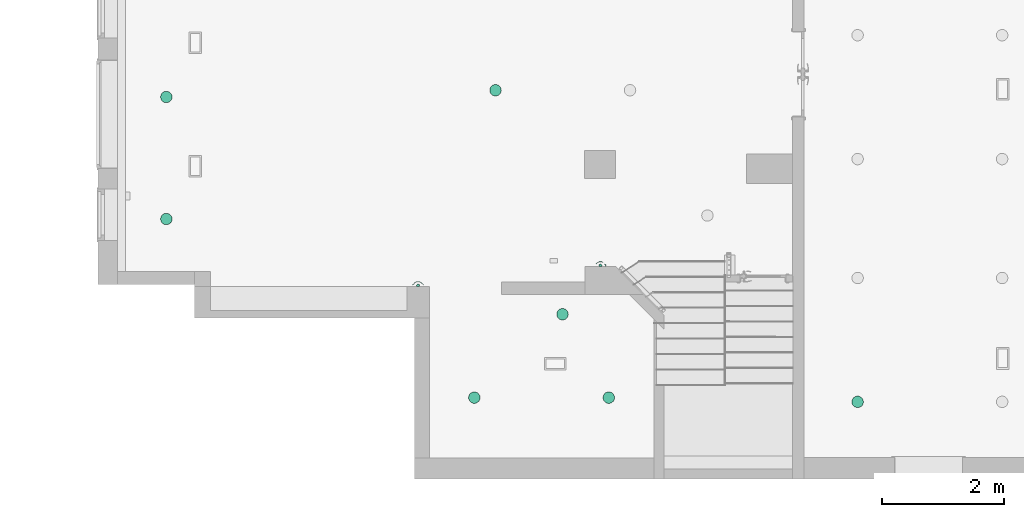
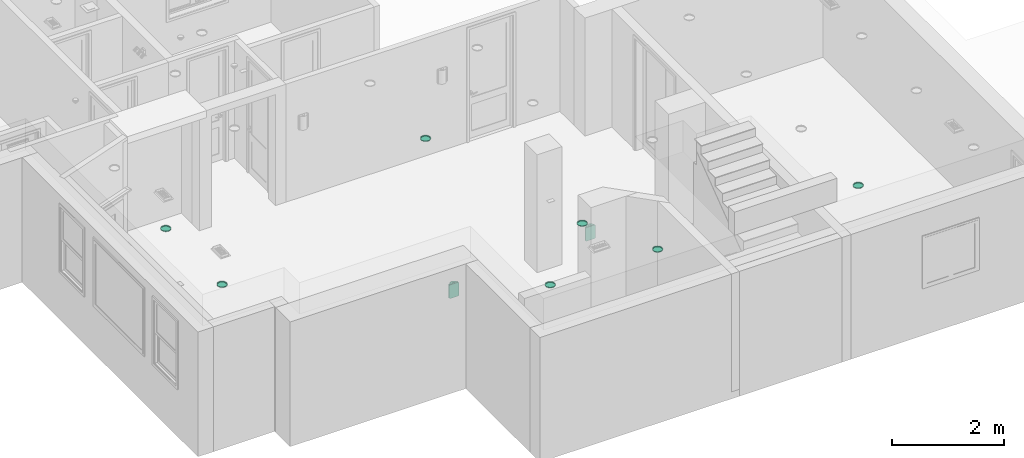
# One storey, part 14 of 24: 9 flow terminals.
"""IFC2X3 building model written with IfcOpenShell, lengths in inches."""

from ifc_helpers import new_model, entity, si_unit, converted_unit, derived_unit, money_unit, direction, frame, origin_with_axes, place, context, subcontext, project, spatial, open_shell, faceted_brep, surface_model, source, transform, mapped, type_object, element, save


model = new_model("IFC2X3")

# Units and contexts
model_context = context("Model", 3, precision=0.000393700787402, world=origin_with_axes(), true_north=direction((0.0, 1.0)))
body_context = subcontext(model_context, "Body", "Model", "MODEL_VIEW")
ifc_project = project(units=[converted_unit("LENGTHUNIT", "INCH", entity("IfcPositiveLengthMeasure", 0.0254), si_unit("LENGTHUNIT", "METRE"), dimensions=[1, 0, 0, 0, 0, 0, 0]), converted_unit("AREAUNIT", "SQUARE_FOOT", entity("IfcPositiveLengthMeasure", 0.09290304), si_unit("AREAUNIT", "SQUARE_METRE"), dimensions=[2, 0, 0, 0, 0, 0, 0]), si_unit("PLANEANGLEUNIT", "RADIAN"), si_unit("SOLIDANGLEUNIT", "STERADIAN"), money_unit("USD"), converted_unit("TIMEUNIT", "Year", entity("IfcTimeMeasure", 31556926.0), si_unit("TIMEUNIT", "SECOND"), dimensions=[0, 0, 1, 0, 0, 0, 0]), si_unit("MASSUNIT", "GRAM", prefix="KILO"), si_unit("THERMODYNAMICTEMPERATUREUNIT", "DEGREE_CELSIUS"), si_unit("LUMINOUSINTENSITYUNIT", "LUMEN"), si_unit("ENERGYUNIT", "JOULE", prefix="MEGA"), derived_unit("THERMALCONDUCTANCEUNIT", [(si_unit("POWERUNIT", "WATT"), 1), (si_unit("LENGTHUNIT", "METRE"), -1), (si_unit("THERMODYNAMICTEMPERATUREUNIT", "KELVIN"), -1)]), derived_unit("SPECIFICHEATCAPACITYUNIT", [(si_unit("ENERGYUNIT", "JOULE"), 1), (si_unit("MASSUNIT", "GRAM", prefix="KILO"), -1), (si_unit("THERMODYNAMICTEMPERATUREUNIT", "KELVIN"), -1)]), derived_unit("MASSDENSITYUNIT", [(si_unit("MASSUNIT", "GRAM", prefix="KILO"), 1), (si_unit("VOLUMEUNIT", "CUBIC_METRE"), -1)])], contexts=[model_context])

# Site, building, storey
site_placement = place(None, origin_with_axes())
site = spatial("IfcSite", under=ifc_project, at=site_placement, Name="Site", CompositionType="ELEMENT")
building_placement = place(site_placement, origin_with_axes())
building = spatial("IfcBuilding", under=site, at=building_placement, Name="Building", CompositionType="ELEMENT")
storey_placement = place(building_placement, origin_with_axes())
storey = spatial("IfcBuildingStorey", under=building, at=storey_placement, Name="First Floor", CompositionType="ELEMENT", Elevation=0.0)

# Flow terminals
light_fixture_type_1 = type_object("IfcLightFixtureType", Name="Recessed Spot 25", PredefinedType="NOTDEFINED")
shared_shape_1 = source(origin_with_axes(), body_context, "Body", "SurfaceModel", [
    faceted_brep([(3.74015748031, 0.0, -0.590551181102), (3.51459838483, 1.27920919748, -0.590551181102), (3.51459838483, 1.27920919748, 0.0), (3.74015748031, 0.0, 0.0), (3.51459838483, -1.27920919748, -0.590551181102), (2.86512685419, -2.40412688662, -0.590551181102), (1.87007874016, -3.23907139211, -0.590551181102), (0.649471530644, -3.6833360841, -0.590551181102), (-0.649471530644, -3.6833360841, -0.590551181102), (-1.87007874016, -3.23907139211, -0.590551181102), (-2.86512685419, -2.40412688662, -0.590551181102), (-3.51459838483, -1.27920919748, -0.590551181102), (-3.74015748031, 0.0, -0.590551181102), (-3.51459838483, 1.27920919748, -0.590551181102), (-2.86512685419, 2.40412688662, -0.590551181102), (-1.87007874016, 3.23907139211, -0.590551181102), (-0.649471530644, 3.6833360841, -0.590551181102), (0.649471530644, 3.6833360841, -0.590551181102), (1.87007874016, 3.23907139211, -0.590551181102), (2.86512685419, 2.40412688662, -0.590551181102), (3.14960629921, 0.0, -0.590551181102), (2.95966179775, 1.07722879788, -0.590551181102), (2.41273840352, 2.02452790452, -0.590551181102), (1.57480314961, 2.72763906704, -0.590551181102), (0.546923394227, 3.1017567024, -0.590551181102), (-0.546923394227, 3.1017567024, -0.590551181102), (-1.57480314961, 2.72763906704, -0.590551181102), (-2.41273840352, 2.02452790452, -0.590551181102), (-2.95966179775, 1.07722879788, -0.590551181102), (-3.14960629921, 0.0, -0.590551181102), (-2.95966179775, -1.07722879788, -0.590551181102), (-2.41273840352, -2.02452790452, -0.590551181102), (-1.57480314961, -2.72763906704, -0.590551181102), (-0.546923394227, -3.1017567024, -0.590551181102), (0.546923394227, -3.1017567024, -0.590551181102), (1.57480314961, -2.72763906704, -0.590551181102), (2.41273840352, -2.02452790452, -0.590551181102), (2.95966179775, -1.07722879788, -0.590551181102), (2.86512685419, 2.40412688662, 0.0), (1.87007874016, 3.23907139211, 0.0), (0.649471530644, 3.6833360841, 0.0), (-0.649471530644, 3.6833360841, 0.0), (-1.87007874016, 3.23907139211, 0.0), (-2.86512685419, 2.40412688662, 0.0), (-3.51459838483, 1.27920919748, 0.0), (-3.74015748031, 0.0, 0.0), (-3.51459838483, -1.27920919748, 0.0), (-2.86512685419, -2.40412688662, 0.0), (-1.87007874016, -3.23907139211, 0.0), (-0.649471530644, -3.6833360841, 0.0), (0.649471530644, -3.6833360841, 0.0), (1.87007874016, -3.23907139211, 0.0), (2.86512685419, -2.40412688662, 0.0), (3.51459838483, -1.27920919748, 0.0), (3.14960629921, 0.0, 0.0), (2.95966179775, -1.07722879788, 0.0), (2.41273840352, -2.02452790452, 0.0), (1.57480314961, -2.72763906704, 0.0), (0.546923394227, -3.1017567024, 0.0), (-0.546923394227, -3.1017567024, 0.0), (-1.57480314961, -2.72763906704, 0.0), (-2.41273840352, -2.02452790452, 0.0), (-2.95966179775, -1.07722879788, 0.0), (-3.14960629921, 0.0, 0.0), (-2.95966179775, 1.07722879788, 0.0), (-2.41273840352, 2.02452790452, 0.0), (-1.57480314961, 2.72763906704, 0.0), (-0.546923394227, 3.1017567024, 0.0), (0.546923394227, 3.1017567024, 0.0), (1.57480314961, 2.72763906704, 0.0), (2.41273840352, 2.02452790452, 0.0), (2.95966179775, 1.07722879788, 0.0)], [[[0, 1, 2, 3]], [[0, 4, 5, 6, 7, 8, 9, 10, 11, 12, 13, 14, 15, 16, 17, 18, 19, 1], [20, 21, 22, 23, 24, 25, 26, 27, 28, 29, 30, 31, 32, 33, 34, 35, 36, 37]], [[1, 19, 38, 2]], [[3, 2, 38, 39, 40, 41, 42, 43, 44, 45, 46, 47, 48, 49, 50, 51, 52, 53], [54, 55, 56, 57, 58, 59, 60, 61, 62, 63, 64, 65, 66, 67, 68, 69, 70, 71]], [[4, 0, 3, 53]], [[5, 4, 53, 52]], [[6, 5, 52, 51]], [[7, 6, 51, 50]], [[8, 7, 50, 49]], [[9, 8, 49, 48]], [[10, 9, 48, 47]], [[11, 10, 47, 46]], [[12, 11, 46, 45]], [[13, 12, 45, 44]], [[14, 13, 44, 43]], [[15, 14, 43, 42]], [[16, 15, 42, 41]], [[17, 16, 41, 40]], [[18, 17, 40, 39]], [[19, 18, 39, 38]], [[21, 20, 54, 71]], [[22, 21, 71, 70]], [[23, 22, 70, 69]], [[24, 23, 69, 68]], [[25, 24, 68, 67]], [[26, 25, 67, 66]], [[27, 26, 66, 65]], [[28, 27, 65, 64]], [[29, 28, 64, 63]], [[30, 29, 63, 62]], [[31, 30, 62, 61]], [[32, 31, 61, 60]], [[33, 32, 60, 59]], [[34, 33, 59, 58]], [[35, 34, 58, 57]], [[36, 35, 57, 56]], [[37, 36, 56, 55]], [[20, 37, 55, 54]]]),
    surface_model("IfcShellBasedSurfaceModel", [(3.14960629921, 0.0, -0.527559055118), (2.95966179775, -1.07722879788, -0.527559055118), (2.41273840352, -2.02452790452, -0.527559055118), (1.57480314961, -2.72763906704, -0.527559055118), (0.546923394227, -3.1017567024, -0.527559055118), (-0.546923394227, -3.1017567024, -0.527559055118), (-1.57480314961, -2.72763906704, -0.527559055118), (-2.41273840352, -2.02452790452, -0.527559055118), (-2.95966179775, -1.07722879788, -0.527559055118), (-3.14960629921, 0.0, -0.527559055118), (-2.95966179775, 1.07722879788, -0.527559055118), (-2.41273840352, 2.02452790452, -0.527559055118), (-1.57480314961, 2.72763906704, -0.527559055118), (-0.546923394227, 3.1017567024, -0.527559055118), (0.546923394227, 3.1017567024, -0.527559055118), (1.57480314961, 2.72763906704, -0.527559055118), (2.41273840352, 2.02452790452, -0.527559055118), (2.95966179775, 1.07722879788, -0.527559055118)], [open_shell([[[0, 1, 2, 3, 4, 5, 6, 7, 8, 9, 10, 11, 12, 13, 14, 15, 16, 17]]])]),
])
for number, where, z_axis, x_axis, name in (
    (1, (769.180563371, 62.9166406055, 101.0), (0.0, 0.0, 1.0), (1.0, 0.0, 0.0), "L-03"),
    (2, (321.927307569, 260.154498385, 101.0), (0.0, 0.0, 1.0), (1.0, 0.0, 0.0), "L-03"),
    (3, (321.927307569, 181.217490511, 101.0), (0.0, 0.0, 1.0), (1.0, 0.0, 0.0), "L-03"),
    (4, (521.167878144, 65.6634610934, 101.0), (0.0, 0.0, 1.0), (1.0, 0.0, 0.0), "L-03"),
    (5, (578.254492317, 119.600468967, 101.0), (0.0, 0.0, 1.0), (1.0, 0.0, 0.0), "L-03"),
    (6, (608.175752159, 65.6634610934, 101.0), (0.0, 0.0, 1.0), (1.0, 0.0, 0.0), "L-03"),
    (7, (534.910431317, 264.501660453, 101.0), (0.0, 0.0, 1.0), (1.0, 0.0, 0.0), "L-03"),
):
    element("IfcFlowTerminal", number, at=place(storey_placement, frame(where, z_axis=z_axis, x_axis=x_axis)), inside=storey, type_object=light_fixture_type_1, Name=name, context=body_context, shape_type="MappedRepresentation", body=[
        mapped(shared_shape_1, transform((0.0, 0.0, 0.0))),
    ])
light_fixture_type_2 = type_object("IfcLightFixtureType", Name="Wall Lamp 25", PredefinedType="NOTDEFINED")
shared_shape_2 = source(origin_with_axes(), body_context, "Body", "Brep", [
    faceted_brep([(3.93700787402, -1.06299212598, 0.0), (3.59199112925, -1.06314352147, 0.0), (3.59199112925, -1.06314352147, 11.811023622), (3.93700787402, -1.06299212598, 11.811023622), (3.93700787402, -1.1811023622, 0.0), (3.54330708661, -1.1811023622, 0.0), (3.38969265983, -1.19623206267, 0.0), (3.24198154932, -1.24103973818, 0.0), (3.10585021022, -1.31380345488, 0.0), (2.98653009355, -1.41172694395, 0.0), (2.66966529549, -1.94556474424, 0.0), (2.25851711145, -2.41069189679, 0.0), (1.76760587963, -2.7906817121, 0.0), (1.2142688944, -3.0721142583, 0.0), (0.618048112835, -3.24505030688, 0.0), (0.0, -3.30338235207, 0.0), (0.0, -3.14960629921, 0.0), (0.56588522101, -3.09835339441, 0.0), (1.11335337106, -2.94626273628, 0.0), (1.6245867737, -2.6982842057, 0.0), (2.0829470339, -2.3624884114, 0.0), (2.47351654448, -1.94980402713, 0.0), (2.78358398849, -1.47366211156, 0.0), (2.90306916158, -1.32652027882, 0.0), (3.0505358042, -1.20743621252, 0.0), (3.21953891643, -1.12161445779, 0.0), (3.40269225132, -1.07280583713, 0.0), (3.40269225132, -1.07280583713, 11.811023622), (3.21953891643, -1.12161445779, 11.811023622), (3.0505358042, -1.20743621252, 11.811023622), (2.90306916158, -1.32652027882, 11.811023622), (2.78358398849, -1.47366211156, 11.811023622), (2.47351654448, -1.94980402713, 11.811023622), (2.0829470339, -2.3624884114, 11.811023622), (1.6245867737, -2.6982842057, 11.811023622), (1.11335337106, -2.94626273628, 11.811023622), (0.56588522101, -3.09835339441, 11.811023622), (0.0, -3.14960629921, 11.811023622), (0.0, -3.30338235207, 11.811023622), (0.618048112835, -3.24505030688, 11.811023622), (1.2142688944, -3.0721142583, 11.811023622), (1.76760587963, -2.7906817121, 11.811023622), (2.25851711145, -2.41069189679, 11.811023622), (2.66966529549, -1.94556474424, 11.811023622), (2.98653009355, -1.41172694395, 11.811023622), (3.10585021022, -1.31380345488, 11.811023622), (3.24198154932, -1.24103973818, 11.811023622), (3.38969265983, -1.19623206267, 11.811023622), (3.54330708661, -1.1811023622, 11.811023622), (3.93700787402, -1.1811023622, 11.811023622)], [[[0, 1, 2, 3]], [[0, 4, 5, 6, 7, 8, 9, 10, 11, 12, 13, 14, 15, 16, 17, 18, 19, 20, 21, 22, 23, 24, 25, 26, 1]], [[1, 26, 27, 2]], [[3, 2, 27, 28, 29, 30, 31, 32, 33, 34, 35, 36, 37, 38, 39, 40, 41, 42, 43, 44, 45, 46, 47, 48, 49]], [[4, 0, 3, 49]], [[5, 4, 49, 48]], [[6, 5, 48, 47]], [[7, 6, 47, 46]], [[8, 7, 46, 45]], [[9, 8, 45, 44]], [[10, 9, 44, 43]], [[11, 10, 43, 42]], [[12, 11, 42, 41]], [[13, 12, 41, 40]], [[14, 13, 40, 39]], [[15, 14, 39, 38]], [[16, 15, 38, 37]], [[17, 16, 37, 36]], [[18, 17, 36, 35]], [[19, 18, 35, 34]], [[20, 19, 34, 33]], [[21, 20, 33, 32]], [[22, 21, 32, 31]], [[23, 22, 31, 30]], [[24, 23, 30, 29]], [[25, 24, 29, 28]], [[26, 25, 28, 27]]]),
    faceted_brep([(-3.93700787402, -1.06299212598, 0.0), (-3.93700787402, -1.06299212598, 11.811023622), (-3.59199112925, -1.06314352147, 11.811023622), (-3.59199112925, -1.06314352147, 0.0), (-3.93700787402, -1.1811023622, 0.0), (-3.93700787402, -1.1811023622, 11.811023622), (-3.54330708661, -1.1811023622, 11.811023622), (-3.38969265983, -1.19623206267, 11.811023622), (-3.24198154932, -1.24103973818, 11.811023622), (-3.10585021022, -1.31380345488, 11.811023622), (-2.98653009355, -1.41172694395, 11.811023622), (-2.66966529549, -1.94556474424, 11.811023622), (-2.25851711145, -2.41069189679, 11.811023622), (-1.76760587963, -2.7906817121, 11.811023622), (-1.2142688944, -3.0721142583, 11.811023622), (-0.618048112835, -3.24505030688, 11.811023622), (0.0, -3.30338235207, 11.811023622), (0.0, -3.14960629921, 11.811023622), (-0.56588522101, -3.09835339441, 11.811023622), (-1.11335337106, -2.94626273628, 11.811023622), (-1.6245867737, -2.6982842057, 11.811023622), (-2.0829470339, -2.3624884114, 11.811023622), (-2.47351654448, -1.94980402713, 11.811023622), (-2.78358398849, -1.47366211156, 11.811023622), (-2.90306916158, -1.32652027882, 11.811023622), (-3.0505358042, -1.20743621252, 11.811023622), (-3.21953891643, -1.12161445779, 11.811023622), (-3.40269225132, -1.07280583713, 11.811023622), (-3.40269225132, -1.07280583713, 0.0), (-3.21953891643, -1.12161445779, 0.0), (-3.0505358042, -1.20743621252, 0.0), (-2.90306916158, -1.32652027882, 0.0), (-2.78358398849, -1.47366211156, 0.0), (-2.47351654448, -1.94980402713, 0.0), (-2.0829470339, -2.3624884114, 0.0), (-1.6245867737, -2.6982842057, 0.0), (-1.11335337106, -2.94626273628, 0.0), (-0.56588522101, -3.09835339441, 0.0), (0.0, -3.14960629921, 0.0), (0.0, -3.30338235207, 0.0), (-0.618048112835, -3.24505030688, 0.0), (-1.2142688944, -3.0721142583, 0.0), (-1.76760587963, -2.7906817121, 0.0), (-2.25851711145, -2.41069189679, 0.0), (-2.66966529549, -1.94556474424, 0.0), (-2.98653009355, -1.41172694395, 0.0), (-3.10585021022, -1.31380345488, 0.0), (-3.24198154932, -1.24103973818, 0.0), (-3.38969265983, -1.19623206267, 0.0), (-3.54330708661, -1.1811023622, 0.0)], [[[0, 1, 2, 3]], [[4, 5, 1, 0]], [[1, 5, 6, 7, 8, 9, 10, 11, 12, 13, 14, 15, 16, 17, 18, 19, 20, 21, 22, 23, 24, 25, 26, 27, 2]], [[3, 2, 27, 28]], [[0, 3, 28, 29, 30, 31, 32, 33, 34, 35, 36, 37, 38, 39, 40, 41, 42, 43, 44, 45, 46, 47, 48, 49, 4]], [[49, 6, 5, 4]], [[48, 7, 6, 49]], [[47, 8, 7, 48]], [[46, 9, 8, 47]], [[45, 10, 9, 46]], [[44, 11, 10, 45]], [[43, 12, 11, 44]], [[42, 13, 12, 43]], [[41, 14, 13, 42]], [[40, 15, 14, 41]], [[39, 16, 15, 40]], [[38, 17, 16, 39]], [[37, 18, 17, 38]], [[36, 19, 18, 37]], [[35, 20, 19, 36]], [[34, 21, 20, 35]], [[33, 22, 21, 34]], [[32, 23, 22, 33]], [[31, 24, 23, 32]], [[30, 25, 24, 31]], [[29, 26, 25, 30]], [[28, 27, 26, 29]]]),
    faceted_brep([(3.14960629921, 0.0, 0.0), (3.14960629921, -0.0393700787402, 0.0), (-3.14960629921, -0.0393700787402, 0.0), (-3.14960629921, 0.0, 0.0), (3.303220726, 0.0, 0.0151297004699), (3.303220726, -0.0393700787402, 0.0151297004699), (3.45093183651, -0.0393700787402, 0.0599373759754), (3.58706317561, -0.0393700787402, 0.132701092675), (3.70638329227, -0.0393700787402, 0.230624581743), (3.80430678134, -0.0393700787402, 0.34994469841), (3.87707049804, -0.0393700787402, 0.486076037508), (3.92187817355, -0.0393700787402, 0.633787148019), (3.93700787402, -0.0393700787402, 0.787401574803), (3.93700787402, -0.0393700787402, 11.0236220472), (3.92187817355, -0.0393700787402, 11.177236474), (3.87707049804, -0.0393700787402, 11.3249475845), (3.80430678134, -0.0393700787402, 11.4610789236), (3.70638329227, -0.0393700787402, 11.5803990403), (3.58706317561, -0.0393700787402, 11.6783225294), (3.45093183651, -0.0393700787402, 11.7510862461), (3.303220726, -0.0393700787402, 11.7958939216), (3.14960629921, -0.0393700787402, 11.811023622), (-3.14960629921, -0.0393700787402, 11.811023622), (-3.303220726, -0.0393700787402, 11.7958939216), (-3.45093183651, -0.0393700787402, 11.7510862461), (-3.58706317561, -0.0393700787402, 11.6783225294), (-3.70638329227, -0.0393700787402, 11.5803990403), (-3.80430678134, -0.0393700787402, 11.4610789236), (-3.87707049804, -0.0393700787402, 11.3249475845), (-3.92187817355, -0.0393700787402, 11.177236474), (-3.93700787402, -0.0393700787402, 11.0236220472), (-3.93700787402, -0.0393700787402, 0.787401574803), (-3.92187817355, -0.0393700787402, 0.633787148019), (-3.87707049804, -0.0393700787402, 0.486076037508), (-3.80430678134, -0.0393700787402, 0.34994469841), (-3.70638329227, -0.0393700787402, 0.230624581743), (-3.58706317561, -0.0393700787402, 0.132701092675), (-3.45093183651, -0.0393700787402, 0.0599373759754), (-3.303220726, -0.0393700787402, 0.0151297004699), (-3.303220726, 0.0, 0.0151297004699), (-3.45093183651, 0.0, 0.0599373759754), (-3.58706317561, 0.0, 0.132701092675), (-3.70638329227, 0.0, 0.230624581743), (-3.80430678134, 0.0, 0.34994469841), (-3.87707049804, 0.0, 0.486076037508), (-3.92187817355, 0.0, 0.633787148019), (-3.93700787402, 0.0, 0.787401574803), (-3.93700787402, 0.0, 11.0236220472), (-3.92187817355, 0.0, 11.177236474), (-3.87707049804, 0.0, 11.3249475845), (-3.80430678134, 0.0, 11.4610789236), (-3.70638329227, 0.0, 11.5803990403), (-3.58706317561, 0.0, 11.6783225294), (-3.45093183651, 0.0, 11.7510862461), (-3.303220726, 0.0, 11.7958939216), (-3.14960629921, 0.0, 11.811023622), (3.14960629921, 0.0, 11.811023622), (3.303220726, 0.0, 11.7958939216), (3.45093183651, 0.0, 11.7510862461), (3.58706317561, 0.0, 11.6783225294), (3.70638329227, 0.0, 11.5803990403), (3.80430678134, 0.0, 11.4610789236), (3.87707049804, 0.0, 11.3249475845), (3.92187817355, 0.0, 11.177236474), (3.93700787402, 0.0, 11.0236220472), (3.93700787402, 0.0, 0.787401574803), (3.92187817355, 0.0, 0.633787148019), (3.87707049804, 0.0, 0.486076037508), (3.80430678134, 0.0, 0.34994469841), (3.70638329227, 0.0, 0.230624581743), (3.58706317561, 0.0, 0.132701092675), (3.45093183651, 0.0, 0.0599373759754)], [[[0, 1, 2, 3]], [[4, 5, 1, 0]], [[1, 5, 6, 7, 8, 9, 10, 11, 12, 13, 14, 15, 16, 17, 18, 19, 20, 21, 22, 23, 24, 25, 26, 27, 28, 29, 30, 31, 32, 33, 34, 35, 36, 37, 38, 2]], [[3, 2, 38, 39]], [[0, 3, 39, 40, 41, 42, 43, 44, 45, 46, 47, 48, 49, 50, 51, 52, 53, 54, 55, 56, 57, 58, 59, 60, 61, 62, 63, 64, 65, 66, 67, 68, 69, 70, 71, 4]], [[71, 6, 5, 4]], [[70, 7, 6, 71]], [[69, 8, 7, 70]], [[68, 9, 8, 69]], [[67, 10, 9, 68]], [[66, 11, 10, 67]], [[65, 12, 11, 66]], [[64, 13, 12, 65]], [[63, 14, 13, 64]], [[62, 15, 14, 63]], [[61, 16, 15, 62]], [[60, 17, 16, 61]], [[59, 18, 17, 60]], [[58, 19, 18, 59]], [[57, 20, 19, 58]], [[56, 21, 20, 57]], [[55, 22, 21, 56]], [[54, 23, 22, 55]], [[53, 24, 23, 54]], [[52, 25, 24, 53]], [[51, 26, 25, 52]], [[50, 27, 26, 51]], [[49, 28, 27, 50]], [[48, 29, 28, 49]], [[47, 30, 29, 48]], [[46, 31, 30, 47]], [[45, 32, 31, 46]], [[44, 33, 32, 45]], [[43, 34, 33, 44]], [[42, 35, 34, 43]], [[41, 36, 35, 42]], [[40, 37, 36, 41]], [[39, 38, 37, 40]]]),
    faceted_brep([(3.66141732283, -0.0393700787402, 0.393700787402), (3.60236220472, -0.0393700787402, 0.495987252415), (3.60236220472, -1.22047244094, 0.495987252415), (3.66141732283, -1.22047244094, 0.393700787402), (3.60236220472, -0.0393700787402, 0.291414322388), (3.4842519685, -0.0393700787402, 0.291414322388), (3.42519685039, -0.0393700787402, 0.393700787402), (3.4842519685, -0.0393700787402, 0.495987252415), (3.4842519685, -1.22047244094, 0.495987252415), (3.42519685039, -1.22047244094, 0.393700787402), (3.4842519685, -1.22047244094, 0.291414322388), (3.60236220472, -1.22047244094, 0.291414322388)], [[[0, 1, 2, 3]], [[0, 4, 5, 6, 7, 1]], [[1, 7, 8, 2]], [[3, 2, 8, 9, 10, 11]], [[4, 0, 3, 11]], [[5, 4, 11, 10]], [[6, 5, 10, 9]], [[7, 6, 9, 8]]]),
    faceted_brep([(-3.42519685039, -0.0393700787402, 0.393700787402), (-3.4842519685, -0.0393700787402, 0.495987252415), (-3.4842519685, -1.22047244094, 0.495987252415), (-3.42519685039, -1.22047244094, 0.393700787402), (-3.4842519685, -0.0393700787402, 0.291414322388), (-3.60236220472, -0.0393700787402, 0.291414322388), (-3.66141732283, -0.0393700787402, 0.393700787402), (-3.60236220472, -0.0393700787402, 0.495987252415), (-3.60236220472, -1.22047244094, 0.495987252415), (-3.66141732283, -1.22047244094, 0.393700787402), (-3.60236220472, -1.22047244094, 0.291414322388), (-3.4842519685, -1.22047244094, 0.291414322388)], [[[0, 1, 2, 3]], [[0, 4, 5, 6, 7, 1]], [[1, 7, 8, 2]], [[3, 2, 8, 9, 10, 11]], [[4, 0, 3, 11]], [[5, 4, 11, 10]], [[6, 5, 10, 9]], [[7, 6, 9, 8]]]),
    faceted_brep([(3.66141732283, -0.0393700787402, 11.4173228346), (3.60236220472, -0.0393700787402, 11.5196092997), (3.60236220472, -1.22047244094, 11.5196092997), (3.66141732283, -1.22047244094, 11.4173228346), (3.60236220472, -0.0393700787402, 11.3150363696), (3.4842519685, -0.0393700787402, 11.3150363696), (3.42519685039, -0.0393700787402, 11.4173228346), (3.4842519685, -0.0393700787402, 11.5196092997), (3.4842519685, -1.22047244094, 11.5196092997), (3.42519685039, -1.22047244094, 11.4173228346), (3.4842519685, -1.22047244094, 11.3150363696), (3.60236220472, -1.22047244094, 11.3150363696)], [[[0, 1, 2, 3]], [[0, 4, 5, 6, 7, 1]], [[1, 7, 8, 2]], [[3, 2, 8, 9, 10, 11]], [[4, 0, 3, 11]], [[5, 4, 11, 10]], [[6, 5, 10, 9]], [[7, 6, 9, 8]]]),
    faceted_brep([(-3.42519685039, -0.0393700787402, 11.4173228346), (-3.4842519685, -0.0393700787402, 11.5196092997), (-3.4842519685, -1.22047244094, 11.5196092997), (-3.42519685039, -1.22047244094, 11.4173228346), (-3.4842519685, -0.0393700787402, 11.3150363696), (-3.60236220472, -0.0393700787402, 11.3150363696), (-3.66141732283, -0.0393700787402, 11.4173228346), (-3.60236220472, -0.0393700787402, 11.5196092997), (-3.60236220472, -1.22047244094, 11.5196092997), (-3.66141732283, -1.22047244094, 11.4173228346), (-3.60236220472, -1.22047244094, 11.3150363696), (-3.4842519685, -1.22047244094, 11.3150363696)], [[[0, 1, 2, 3]], [[0, 4, 5, 6, 7, 1]], [[1, 7, 8, 2]], [[3, 2, 8, 9, 10, 11]], [[4, 0, 3, 11]], [[5, 4, 11, 10]], [[6, 5, 10, 9]], [[7, 6, 9, 8]]]),
    faceted_brep([(-0.787401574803, -0.0393700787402, 0.0), (-0.889578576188, -0.208730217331, 0.0), (-0.889578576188, -0.208730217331, 0.984251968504), (-0.787401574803, -0.0393700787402, 0.984251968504), (0.787401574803, -0.0393700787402, 0.0), (0.889578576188, -0.208730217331, 0.0), (0.955829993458, -0.39510013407, 0.0), (0.983480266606, -0.590953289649, 0.0), (0.9714127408, -0.78838016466, 0.0), (0.920114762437, -0.979407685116, 0.0), (0.83165799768, -1.15632121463, 0.0), (0.709614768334, -1.31197610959, 0.0), (0.558913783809, -1.44008625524, 0.0), (0.385641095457, -1.53547793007, 0.0), (0.196794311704, -1.5942987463, 0.0), (0.0, -1.61417322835, 0.0), (-0.196794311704, -1.5942987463, 0.0), (-0.385641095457, -1.53547793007, 0.0), (-0.558913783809, -1.44008625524, 0.0), (-0.709614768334, -1.31197610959, 0.0), (-0.83165799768, -1.15632121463, 0.0), (-0.920114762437, -0.979407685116, 0.0), (-0.9714127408, -0.78838016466, 0.0), (-0.983480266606, -0.590953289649, 0.0), (-0.955829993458, -0.39510013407, 0.0), (-0.955829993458, -0.39510013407, 0.984251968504), (-0.983480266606, -0.590953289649, 0.984251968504), (-0.9714127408, -0.78838016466, 0.984251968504), (-0.920114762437, -0.979407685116, 0.984251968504), (-0.83165799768, -1.15632121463, 0.984251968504), (-0.709614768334, -1.31197610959, 0.984251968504), (-0.558913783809, -1.44008625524, 0.984251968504), (-0.385641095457, -1.53547793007, 0.984251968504), (-0.196794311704, -1.5942987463, 0.984251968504), (0.0, -1.61417322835, 0.984251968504), (0.196794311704, -1.5942987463, 0.984251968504), (0.385641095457, -1.53547793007, 0.984251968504), (0.558913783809, -1.44008625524, 0.984251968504), (0.709614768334, -1.31197610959, 0.984251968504), (0.83165799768, -1.15632121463, 0.984251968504), (0.920114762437, -0.979407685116, 0.984251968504), (0.9714127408, -0.78838016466, 0.984251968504), (0.983480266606, -0.590953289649, 0.984251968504), (0.955829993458, -0.39510013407, 0.984251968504), (0.889578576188, -0.208730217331, 0.984251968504), (0.787401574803, -0.0393700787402, 0.984251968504)], [[[0, 1, 2, 3]], [[0, 4, 5, 6, 7, 8, 9, 10, 11, 12, 13, 14, 15, 16, 17, 18, 19, 20, 21, 22, 23, 24, 1]], [[1, 24, 25, 2]], [[3, 2, 25, 26, 27, 28, 29, 30, 31, 32, 33, 34, 35, 36, 37, 38, 39, 40, 41, 42, 43, 44, 45]], [[4, 0, 3, 45]], [[5, 4, 45, 44]], [[6, 5, 44, 43]], [[7, 6, 43, 42]], [[8, 7, 42, 41]], [[9, 8, 41, 40]], [[10, 9, 40, 39]], [[11, 10, 39, 38]], [[12, 11, 38, 37]], [[13, 12, 37, 36]], [[14, 13, 36, 35]], [[15, 14, 35, 34]], [[16, 15, 34, 33]], [[17, 16, 33, 32]], [[18, 17, 32, 31]], [[19, 18, 31, 30]], [[20, 19, 30, 29]], [[21, 20, 29, 28]], [[22, 21, 28, 27]], [[23, 22, 27, 26]], [[24, 23, 26, 25]]]),
    faceted_brep([(-0.787401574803, -0.0393700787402, 10.8267716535), (-0.889578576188, -0.208730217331, 10.8267716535), (-0.889578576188, -0.208730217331, 11.811023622), (-0.787401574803, -0.0393700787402, 11.811023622), (0.787401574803, -0.0393700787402, 10.8267716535), (0.889578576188, -0.208730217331, 10.8267716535), (0.955829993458, -0.39510013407, 10.8267716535), (0.983480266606, -0.590953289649, 10.8267716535), (0.9714127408, -0.78838016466, 10.8267716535), (0.920114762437, -0.979407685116, 10.8267716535), (0.83165799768, -1.15632121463, 10.8267716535), (0.709614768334, -1.31197610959, 10.8267716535), (0.558913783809, -1.44008625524, 10.8267716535), (0.385641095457, -1.53547793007, 10.8267716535), (0.196794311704, -1.5942987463, 10.8267716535), (0.0, -1.61417322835, 10.8267716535), (-0.196794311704, -1.5942987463, 10.8267716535), (-0.385641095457, -1.53547793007, 10.8267716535), (-0.558913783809, -1.44008625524, 10.8267716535), (-0.709614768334, -1.31197610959, 10.8267716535), (-0.83165799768, -1.15632121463, 10.8267716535), (-0.920114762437, -0.979407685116, 10.8267716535), (-0.9714127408, -0.78838016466, 10.8267716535), (-0.983480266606, -0.590953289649, 10.8267716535), (-0.955829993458, -0.39510013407, 10.8267716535), (-0.955829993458, -0.39510013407, 11.811023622), (-0.983480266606, -0.590953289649, 11.811023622), (-0.9714127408, -0.78838016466, 11.811023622), (-0.920114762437, -0.979407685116, 11.811023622), (-0.83165799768, -1.15632121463, 11.811023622), (-0.709614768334, -1.31197610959, 11.811023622), (-0.558913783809, -1.44008625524, 11.811023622), (-0.385641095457, -1.53547793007, 11.811023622), (-0.196794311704, -1.5942987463, 11.811023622), (0.0, -1.61417322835, 11.811023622), (0.196794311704, -1.5942987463, 11.811023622), (0.385641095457, -1.53547793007, 11.811023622), (0.558913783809, -1.44008625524, 11.811023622), (0.709614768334, -1.31197610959, 11.811023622), (0.83165799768, -1.15632121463, 11.811023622), (0.920114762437, -0.979407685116, 11.811023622), (0.9714127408, -0.78838016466, 11.811023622), (0.983480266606, -0.590953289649, 11.811023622), (0.955829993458, -0.39510013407, 11.811023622), (0.889578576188, -0.208730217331, 11.811023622), (0.787401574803, -0.0393700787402, 11.811023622)], [[[0, 1, 2, 3]], [[0, 4, 5, 6, 7, 8, 9, 10, 11, 12, 13, 14, 15, 16, 17, 18, 19, 20, 21, 22, 23, 24, 1]], [[1, 24, 25, 2]], [[3, 2, 25, 26, 27, 28, 29, 30, 31, 32, 33, 34, 35, 36, 37, 38, 39, 40, 41, 42, 43, 44, 45]], [[4, 0, 3, 45]], [[5, 4, 45, 44]], [[6, 5, 44, 43]], [[7, 6, 43, 42]], [[8, 7, 42, 41]], [[9, 8, 41, 40]], [[10, 9, 40, 39]], [[11, 10, 39, 38]], [[12, 11, 38, 37]], [[13, 12, 37, 36]], [[14, 13, 36, 35]], [[15, 14, 35, 34]], [[16, 15, 34, 33]], [[17, 16, 33, 32]], [[18, 17, 32, 31]], [[19, 18, 31, 30]], [[20, 19, 30, 29]], [[21, 20, 29, 28]], [[22, 21, 28, 27]], [[23, 22, 27, 26]], [[24, 23, 26, 25]]]),
    faceted_brep([(-0.787401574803, -0.0393700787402, 0.984251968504), (-0.889578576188, -0.208730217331, 0.984251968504), (-0.889578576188, -0.208730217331, 10.8267716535), (-0.787401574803, -0.0393700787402, 10.8267716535), (0.787401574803, -0.0393700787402, 0.984251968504), (0.889578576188, -0.208730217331, 0.984251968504), (0.955829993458, -0.39510013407, 0.984251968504), (0.983480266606, -0.590953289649, 0.984251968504), (0.9714127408, -0.78838016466, 0.984251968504), (0.920114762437, -0.979407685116, 0.984251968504), (0.83165799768, -1.15632121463, 0.984251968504), (0.709614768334, -1.31197610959, 0.984251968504), (0.558913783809, -1.44008625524, 0.984251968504), (0.385641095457, -1.53547793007, 0.984251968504), (0.196794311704, -1.5942987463, 0.984251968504), (0.0, -1.61417322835, 0.984251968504), (-0.196794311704, -1.5942987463, 0.984251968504), (-0.385641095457, -1.53547793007, 0.984251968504), (-0.558913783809, -1.44008625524, 0.984251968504), (-0.709614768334, -1.31197610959, 0.984251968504), (-0.83165799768, -1.15632121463, 0.984251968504), (-0.920114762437, -0.979407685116, 0.984251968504), (-0.9714127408, -0.78838016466, 0.984251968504), (-0.983480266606, -0.590953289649, 0.984251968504), (-0.955829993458, -0.39510013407, 0.984251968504), (-0.955829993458, -0.39510013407, 10.8267716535), (-0.983480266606, -0.590953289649, 10.8267716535), (-0.9714127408, -0.78838016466, 10.8267716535), (-0.920114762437, -0.979407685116, 10.8267716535), (-0.83165799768, -1.15632121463, 10.8267716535), (-0.709614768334, -1.31197610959, 10.8267716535), (-0.558913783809, -1.44008625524, 10.8267716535), (-0.385641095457, -1.53547793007, 10.8267716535), (-0.196794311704, -1.5942987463, 10.8267716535), (0.0, -1.61417322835, 10.8267716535), (0.196794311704, -1.5942987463, 10.8267716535), (0.385641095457, -1.53547793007, 10.8267716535), (0.558913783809, -1.44008625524, 10.8267716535), (0.709614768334, -1.31197610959, 10.8267716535), (0.83165799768, -1.15632121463, 10.8267716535), (0.920114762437, -0.979407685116, 10.8267716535), (0.9714127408, -0.78838016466, 10.8267716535), (0.983480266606, -0.590953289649, 10.8267716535), (0.955829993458, -0.39510013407, 10.8267716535), (0.889578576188, -0.208730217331, 10.8267716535), (0.787401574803, -0.0393700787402, 10.8267716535)], [[[0, 1, 2, 3]], [[0, 4, 5, 6, 7, 8, 9, 10, 11, 12, 13, 14, 15, 16, 17, 18, 19, 20, 21, 22, 23, 24, 1]], [[1, 24, 25, 2]], [[3, 2, 25, 26, 27, 28, 29, 30, 31, 32, 33, 34, 35, 36, 37, 38, 39, 40, 41, 42, 43, 44, 45]], [[4, 0, 3, 45]], [[5, 4, 45, 44]], [[6, 5, 44, 43]], [[7, 6, 43, 42]], [[8, 7, 42, 41]], [[9, 8, 41, 40]], [[10, 9, 40, 39]], [[11, 10, 39, 38]], [[12, 11, 38, 37]], [[13, 12, 37, 36]], [[14, 13, 36, 35]], [[15, 14, 35, 34]], [[16, 15, 34, 33]], [[17, 16, 33, 32]], [[18, 17, 32, 31]], [[19, 18, 31, 30]], [[20, 19, 30, 29]], [[21, 20, 29, 28]], [[22, 21, 28, 27]], [[23, 22, 27, 26]], [[24, 23, 26, 25]]]),
])
for number, where, z_axis, x_axis, name in (
    (8, (602.758068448, 150.407628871, 59.0551181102), (0.0, 0.0, 1.0), (-1.0, 0.0, 0.0), "L-17"),
    (9, (484.750555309, 137.503689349, 59.0551181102), (0.0, 0.0, 1.0), (-1.0, 0.0, 0.0), "L-17"),
):
    element("IfcFlowTerminal", number, at=place(storey_placement, frame(where, z_axis=z_axis, x_axis=x_axis)), inside=storey, type_object=light_fixture_type_2, Name=name, context=body_context, shape_type="MappedRepresentation", body=[
        mapped(shared_shape_2, transform((0.0, 0.0, 0.0))),
    ])

save(model, "model.ifc")
